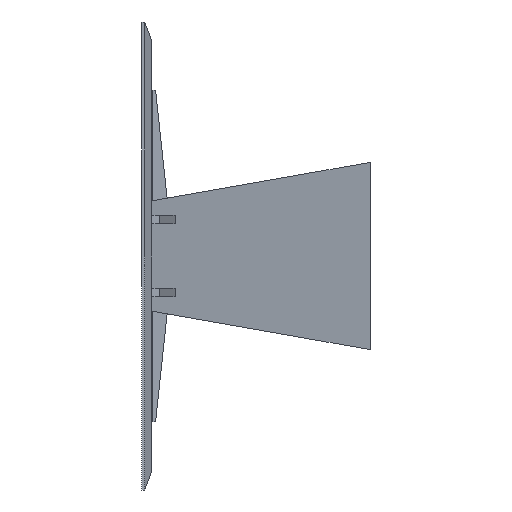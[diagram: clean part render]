
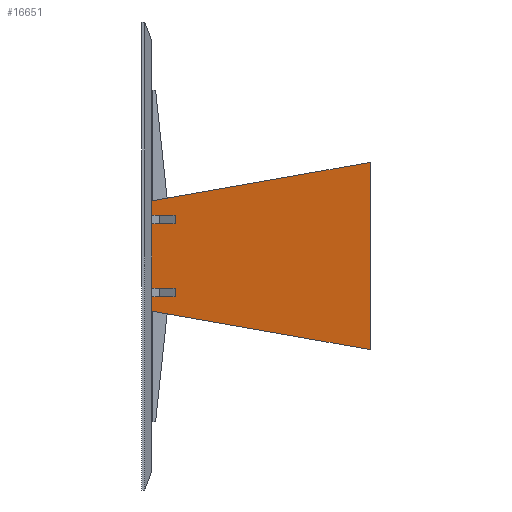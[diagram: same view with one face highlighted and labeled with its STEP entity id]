
A CAD part, left-side view. The second image highlights one B-rep face of the part: STEP entity #16651.
In plain terms, the highlighted planar face has unit normal (-0.985, 0.174, 0).
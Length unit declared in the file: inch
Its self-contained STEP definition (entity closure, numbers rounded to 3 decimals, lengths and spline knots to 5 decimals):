
#2661=FACE_OUTER_BOUND('',#3483,.T.);
#3483=EDGE_LOOP('',(#11719,#11720,#11721,#11722,#11723,#11724,#11725,#11726,
#11727,#11728,#11729,#11730));
#4505=LINE('',#25787,#6156);
#4508=LINE('',#25793,#6159);
#4512=LINE('',#25800,#6163);
#4513=LINE('',#25804,#6164);
#4517=LINE('',#25813,#6168);
#4521=LINE('',#25820,#6172);
#4525=LINE('',#25827,#6176);
#4526=LINE('',#25830,#6177);
#4533=LINE('',#25843,#6184);
#4535=LINE('',#25846,#6186);
#4536=LINE('',#25848,#6187);
#4537=LINE('',#25849,#6188);
#6156=VECTOR('',#20689,0.3937);
#6159=VECTOR('',#20694,0.3937);
#6163=VECTOR('',#20700,0.3937);
#6164=VECTOR('',#20703,0.3937);
#6168=VECTOR('',#20709,0.3937);
#6172=VECTOR('',#20715,0.3937);
#6176=VECTOR('',#20721,0.3937);
#6177=VECTOR('',#20724,0.3937);
#6184=VECTOR('',#20735,0.3937);
#6186=VECTOR('',#20739,0.3937);
#6187=VECTOR('',#20740,0.3937);
#6188=VECTOR('',#20741,0.3937);
#7707=VERTEX_POINT('',#25784);
#7708=VERTEX_POINT('',#25786);
#7710=VERTEX_POINT('',#25792);
#7712=VERTEX_POINT('',#25798);
#7713=VERTEX_POINT('',#25802);
#7714=VERTEX_POINT('',#25803);
#7717=VERTEX_POINT('',#25811);
#7718=VERTEX_POINT('',#25812);
#7722=VERTEX_POINT('',#25825);
#7723=VERTEX_POINT('',#25829);
#7727=VERTEX_POINT('',#25842);
#7728=VERTEX_POINT('',#25847);
#9209=EDGE_CURVE('',#7708,#7707,#4505,.T.);
#9212=EDGE_CURVE('',#7710,#7708,#4508,.T.);
#9216=EDGE_CURVE('',#7707,#7712,#4512,.T.);
#9217=EDGE_CURVE('',#7713,#7714,#4513,.T.);
#9221=EDGE_CURVE('',#7717,#7718,#4517,.T.);
#9225=EDGE_CURVE('',#7718,#7713,#4521,.T.);
#9229=EDGE_CURVE('',#7714,#7722,#4525,.T.);
#9230=EDGE_CURVE('',#7723,#7710,#4526,.T.);
#9237=EDGE_CURVE('',#7722,#7727,#4533,.T.);
#9239=EDGE_CURVE('',#7712,#7717,#4535,.T.);
#9240=EDGE_CURVE('',#7728,#7727,#4536,.T.);
#9241=EDGE_CURVE('',#7728,#7723,#4537,.T.);
#11719=ORIENTED_EDGE('',*,*,#9216,.T.);
#11720=ORIENTED_EDGE('',*,*,#9239,.T.);
#11721=ORIENTED_EDGE('',*,*,#9221,.T.);
#11722=ORIENTED_EDGE('',*,*,#9225,.T.);
#11723=ORIENTED_EDGE('',*,*,#9217,.T.);
#11724=ORIENTED_EDGE('',*,*,#9229,.T.);
#11725=ORIENTED_EDGE('',*,*,#9237,.T.);
#11726=ORIENTED_EDGE('',*,*,#9240,.F.);
#11727=ORIENTED_EDGE('',*,*,#9241,.T.);
#11728=ORIENTED_EDGE('',*,*,#9230,.T.);
#11729=ORIENTED_EDGE('',*,*,#9212,.T.);
#11730=ORIENTED_EDGE('',*,*,#9209,.T.);
#15471=PLANE('',#18396);
#16651=ADVANCED_FACE('',(#2661),#15471,.T.);
#18396=AXIS2_PLACEMENT_3D('',#25845,#20737,#20738);
#20689=DIRECTION('',(0.,0.,-1.));
#20694=DIRECTION('',(-0.174,-0.985,0.));
#20700=DIRECTION('',(0.174,0.985,0.));
#20703=DIRECTION('',(0.174,0.985,0.));
#20709=DIRECTION('',(-0.174,-0.985,0.));
#20715=DIRECTION('',(0.,0.,-1.));
#20721=DIRECTION('',(0.,0.,-1.));
#20724=DIRECTION('',(0.,0.,-1.));
#20735=DIRECTION('',(-0.171,-0.97,-0.171));
#20737=DIRECTION('center_axis',(-0.985,0.174,0.));
#20738=DIRECTION('ref_axis',(0.174,0.985,0.));
#20739=DIRECTION('',(0.,0.,-1.));
#20740=DIRECTION('',(0.,0.,-1.));
#20741=DIRECTION('',(0.171,0.97,-0.171));
#25784=CARTESIAN_POINT('',(22.40817,-3.,-25.875));
#25786=CARTESIAN_POINT('',(22.40817,-3.,-24.75));
#25787=CARTESIAN_POINT('',(22.40817,-3.,-12.9375));
#25792=CARTESIAN_POINT('',(22.93716,0.,-24.75));
#25793=CARTESIAN_POINT('',(19.86624,-17.41601,-24.75));
#25798=CARTESIAN_POINT('',(22.93716,0.,-25.875));
#25800=CARTESIAN_POINT('',(20.12276,-15.96124,-25.875));
#25802=CARTESIAN_POINT('',(22.40817,-3.,-35.25));
#25803=CARTESIAN_POINT('',(22.93716,0.,-35.25));
#25804=CARTESIAN_POINT('',(20.12276,-15.96124,-35.25));
#25811=CARTESIAN_POINT('',(22.93716,0.,-34.125));
#25812=CARTESIAN_POINT('',(22.40817,-3.,-34.125));
#25813=CARTESIAN_POINT('',(19.86624,-17.41601,-34.125));
#25820=CARTESIAN_POINT('',(22.40817,-3.,-17.625));
#25825=CARTESIAN_POINT('',(22.93716,0.,-37.06284));
#25827=CARTESIAN_POINT('',(22.93716,0.,0.));
#25829=CARTESIAN_POINT('',(22.93716,0.,-22.93716));
#25830=CARTESIAN_POINT('',(22.93716,0.,0.));
#25842=CARTESIAN_POINT('',(18.,-28.,-42.));
#25843=CARTESIAN_POINT('',(20.74757,-12.41774,-39.25243));
#25845=CARTESIAN_POINT('Origin',(18.,-28.,0.));
#25846=CARTESIAN_POINT('',(22.93716,0.,0.));
#25847=CARTESIAN_POINT('',(18.,-28.,-18.));
#25848=CARTESIAN_POINT('',(18.,-28.,0.));
#25849=CARTESIAN_POINT('',(17.47312,-30.98808,-17.47312));
